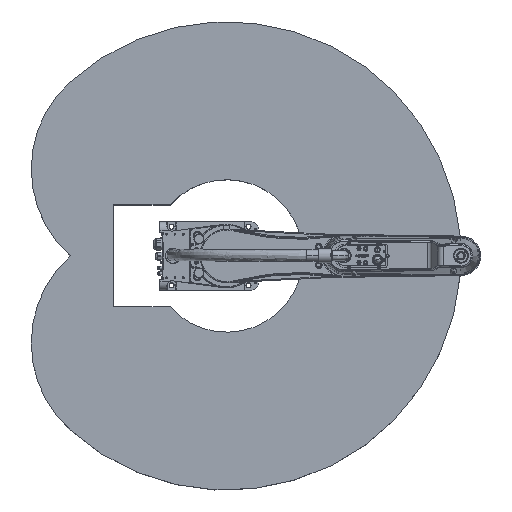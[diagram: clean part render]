
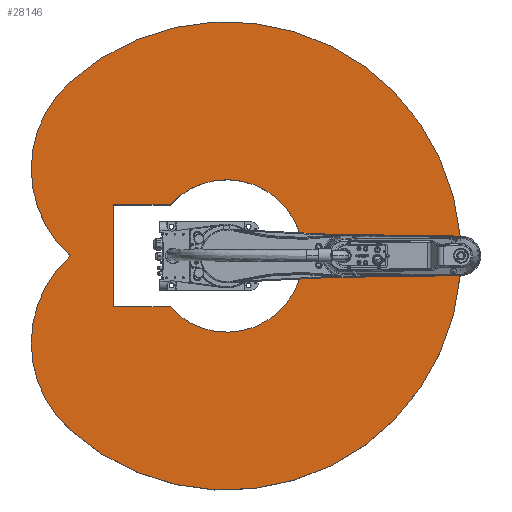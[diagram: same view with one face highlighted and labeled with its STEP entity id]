
A CAD part, top view. The second image highlights one B-rep face of the part: STEP entity #28146.
In plain terms, the highlighted planar face has unit normal (0, 0, 1) as drawn and (0, 1, 0) by its records, which use the part's own axes.
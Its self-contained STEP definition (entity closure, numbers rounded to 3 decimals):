
#1090 = DIRECTION ( 'NONE',  ( 0., 0., 1. ) ) ;
#3642 = CARTESIAN_POINT ( 'NONE',  ( -152.5, 188., 337.5 ) ) ;
#6470 = LINE ( 'NONE', #113876, #131594 ) ;
#7019 = ORIENTED_EDGE ( 'NONE', *, *, #160505, .F. ) ;
#7645 = CIRCLE ( 'NONE', #153657, 350. ) ;
#8758 = CIRCLE ( 'NONE', #20639, 350. ) ;
#12599 = DIRECTION ( 'NONE',  ( 0., 0., 1. ) ) ;
#13652 = AXIS2_PLACEMENT_3D ( 'NONE', #101536, #130755, #1090 ) ;
#15785 = ORIENTED_EDGE ( 'NONE', *, *, #159408, .T. ) ;
#16632 = CARTESIAN_POINT ( 'NONE',  ( 260.101, 188., 234.196 ) ) ;
#17148 = EDGE_CURVE ( 'NONE', #41950, #93706, #7645, .T. ) ;
#18797 = DIRECTION ( 'NONE',  ( 0., 0., -1. ) ) ;
#19168 = ORIENTED_EDGE ( 'NONE', *, *, #17148, .T. ) ;
#20639 = AXIS2_PLACEMENT_3D ( 'NONE', #16632, #149457, #45261 ) ;
#23301 = DIRECTION ( 'NONE',  ( 0., 1., 0. ) ) ;
#28146 = ADVANCED_FACE ( 'NONE', ( #60802, #142668 ), #65906, .T. ) ;
#29046 = ORIENTED_EDGE ( 'NONE', *, *, #163793, .T. ) ;
#30264 = CARTESIAN_POINT ( 'NONE',  ( -520.201, 188., 468.391 ) ) ;
#36585 = EDGE_CURVE ( 'NONE', #46493, #41950, #128280, .T. ) ;
#40454 = LINE ( 'NONE', #48096, #124626 ) ;
#41407 = CARTESIAN_POINT ( 'NONE',  ( -260.101, 188., 584.196 ) ) ;
#41950 = VERTEX_POINT ( 'NONE', #30264 ) ;
#43472 = CARTESIAN_POINT ( 'NONE',  ( 520.201, 188., 468.391 ) ) ;
#43894 = ORIENTED_EDGE ( 'NONE', *, *, #36585, .T. ) ;
#45261 = DIRECTION ( 'NONE',  ( 0., 0., 1. ) ) ;
#46493 = VERTEX_POINT ( 'NONE', #43472 ) ;
#48096 = CARTESIAN_POINT ( 'NONE',  ( 152.5, 188., 169.358 ) ) ;
#54499 = AXIS2_PLACEMENT_3D ( 'NONE', #152970, #23301, #123152 ) ;
#60802 = FACE_BOUND ( 'NONE', #107056, .T. ) ;
#62255 = VERTEX_POINT ( 'NONE', #71050 ) ;
#62689 = DIRECTION ( 'NONE',  ( 0., 1., 0. ) ) ;
#64592 = DIRECTION ( 'NONE',  ( 0., 1., 0. ) ) ;
#65906 = PLANE ( 'NONE',  #54499 ) ;
#67168 = CIRCLE ( 'NONE', #13652, 350. ) ;
#69080 = VECTOR ( 'NONE', #160185, 1000. ) ;
#69741 = CARTESIAN_POINT ( 'NONE',  ( -152.5, 188., 169.358 ) ) ;
#71050 = CARTESIAN_POINT ( 'NONE',  ( 152.5, 188., 169.358 ) ) ;
#77937 = CARTESIAN_POINT ( 'NONE',  ( -260.101, 188., 234.196 ) ) ;
#92960 = ORIENTED_EDGE ( 'NONE', *, *, #121905, .T. ) ;
#93706 = VERTEX_POINT ( 'NONE', #41407 ) ;
#93780 = DIRECTION ( 'NONE',  ( 0., 0., 1. ) ) ;
#95576 = AXIS2_PLACEMENT_3D ( 'NONE', #105290, #62689, #18797 ) ;
#97262 = CARTESIAN_POINT ( 'NONE',  ( 260.101, 188., 234.196 ) ) ;
#98956 = CARTESIAN_POINT ( 'NONE',  ( 260.101, 188., 584.196 ) ) ;
#101536 = CARTESIAN_POINT ( 'NONE',  ( -260.101, 188., 234.196 ) ) ;
#105290 = CARTESIAN_POINT ( 'NONE',  ( 0., 188., 0. ) ) ;
#107056 = EDGE_LOOP ( 'NONE', ( #125998, #179661, #170821, #7019 ) ) ;
#107702 = LINE ( 'NONE', #128485, #69080 ) ;
#109964 = CIRCLE ( 'NONE', #95576, 227.9 ) ;
#111428 = DIRECTION ( 'NONE',  ( 1., 0., 0. ) ) ;
#113876 = CARTESIAN_POINT ( 'NONE',  ( 152.5, 188., 337.5 ) ) ;
#114122 = EDGE_CURVE ( 'NONE', #188199, #126586, #107702, .T. ) ;
#116830 = CARTESIAN_POINT ( 'NONE',  ( 0., 188., 468.391 ) ) ;
#120798 = EDGE_CURVE ( 'NONE', #126586, #128980, #6470, .T. ) ;
#121905 = EDGE_CURVE ( 'NONE', #188278, #46493, #170050, .T. ) ;
#123152 = DIRECTION ( 'NONE',  ( 0., 0., 1. ) ) ;
#124626 = VECTOR ( 'NONE', #178312, 1000. ) ;
#124856 = DIRECTION ( 'NONE',  ( 0., 0., 1. ) ) ;
#125998 = ORIENTED_EDGE ( 'NONE', *, *, #120798, .F. ) ;
#126586 = VERTEX_POINT ( 'NONE', #3642 ) ;
#128280 = CIRCLE ( 'NONE', #130817, 700. ) ;
#128485 = CARTESIAN_POINT ( 'NONE',  ( -152.5, 188., 337.5 ) ) ;
#128782 = EDGE_CURVE ( 'NONE', #62255, #188199, #109964, .T. ) ;
#128980 = VERTEX_POINT ( 'NONE', #186394 ) ;
#130755 = DIRECTION ( 'NONE',  ( 0., 1., 0. ) ) ;
#130817 = AXIS2_PLACEMENT_3D ( 'NONE', #166743, #153420, #124856 ) ;
#131594 = VECTOR ( 'NONE', #111428, 1000. ) ;
#132863 = AXIS2_PLACEMENT_3D ( 'NONE', #97262, #184864, #12599 ) ;
#134114 = VERTEX_POINT ( 'NONE', #116830 ) ;
#142668 = FACE_OUTER_BOUND ( 'NONE', #168421, .T. ) ;
#149457 = DIRECTION ( 'NONE',  ( 0., 1., 0. ) ) ;
#152970 = CARTESIAN_POINT ( 'NONE',  ( 130.05, 188., 117.098 ) ) ;
#153420 = DIRECTION ( 'NONE',  ( 0., 1., 0. ) ) ;
#153657 = AXIS2_PLACEMENT_3D ( 'NONE', #77937, #64592, #93780 ) ;
#159408 = EDGE_CURVE ( 'NONE', #134114, #188278, #8758, .T. ) ;
#160185 = DIRECTION ( 'NONE',  ( 0., 0., 1. ) ) ;
#160505 = EDGE_CURVE ( 'NONE', #128980, #62255, #40454, .T. ) ;
#163793 = EDGE_CURVE ( 'NONE', #93706, #134114, #67168, .T. ) ;
#166743 = CARTESIAN_POINT ( 'NONE',  ( 0., 188., 0. ) ) ;
#168421 = EDGE_LOOP ( 'NONE', ( #15785, #92960, #43894, #19168, #29046 ) ) ;
#170050 = CIRCLE ( 'NONE', #132863, 350. ) ;
#170821 = ORIENTED_EDGE ( 'NONE', *, *, #128782, .F. ) ;
#178312 = DIRECTION ( 'NONE',  ( 0., 0., -1. ) ) ;
#179661 = ORIENTED_EDGE ( 'NONE', *, *, #114122, .F. ) ;
#184864 = DIRECTION ( 'NONE',  ( 0., 1., 0. ) ) ;
#186394 = CARTESIAN_POINT ( 'NONE',  ( 152.5, 188., 337.5 ) ) ;
#188199 = VERTEX_POINT ( 'NONE', #69741 ) ;
#188278 = VERTEX_POINT ( 'NONE', #98956 ) ;
